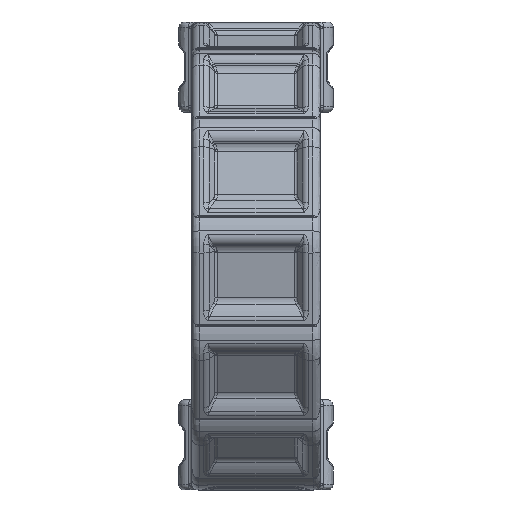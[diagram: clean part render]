
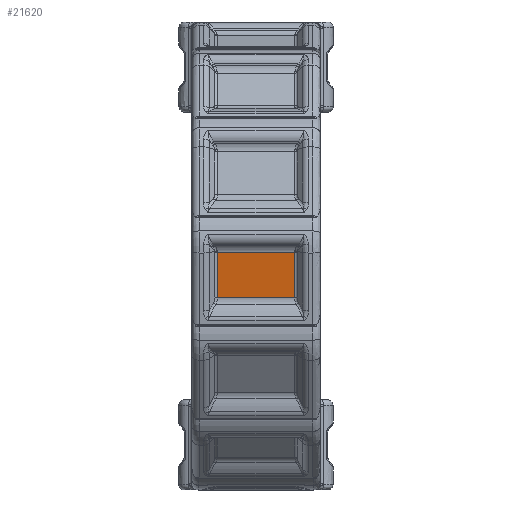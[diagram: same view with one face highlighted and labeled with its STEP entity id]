
A CAD part, front view. The second image highlights one B-rep face of the part: STEP entity #21620.
In plain terms, the highlighted planar face has unit normal (0, -0.988, -0.157) as drawn and (0, 0, -1) by its records, which use the part's own axes.
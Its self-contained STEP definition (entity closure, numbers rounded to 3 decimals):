
#18987=CARTESIAN_POINT('',(40.061,1.357,4.));
#18988=VERTEX_POINT('',#18987);
#19034=CARTESIAN_POINT('',(40.061,19.177,4.));
#19035=VERTEX_POINT('',#19034);
#19045=CARTESIAN_POINT('',(40.061,19.177,4.));
#19046=DIRECTION('',(0.0,-1.0,0.0));
#19047=VECTOR('',#19046,17.821);
#19048=LINE('',#19045,#19047);
#19049=EDGE_CURVE('',#19035,#18988,#19048,.T.);
#21577=CARTESIAN_POINT('',(9.939,19.177,4.));
#21578=VERTEX_POINT('',#21577);
#21579=CARTESIAN_POINT('',(40.061,19.177,4.));
#21580=DIRECTION('',(-1.0,0.0,0.0));
#21581=VECTOR('',#21580,30.121);
#21582=LINE('',#21579,#21581);
#21583=EDGE_CURVE('',#19035,#21578,#21582,.T.);
#21597=CARTESIAN_POINT('',(6.,20.7,4.));
#21598=DIRECTION('',(0.0,0.0,-1.0));
#21599=DIRECTION('',(1.0,0.0,0.0));
#21600=AXIS2_PLACEMENT_3D('',#21597,#21598,#21599);
#21601=PLANE('',#21600);
#21602=CARTESIAN_POINT('',(9.939,1.357,4.));
#21603=VERTEX_POINT('',#21602);
#21604=CARTESIAN_POINT('',(40.061,1.357,4.));
#21605=DIRECTION('',(-1.0,0.0,0.0));
#21606=VECTOR('',#21605,30.121);
#21607=LINE('',#21604,#21606);
#21608=EDGE_CURVE('',#18988,#21603,#21607,.T.);
#21609=ORIENTED_EDGE('',*,*,#21608,.T.);
#21610=CARTESIAN_POINT('',(9.939,19.177,4.));
#21611=DIRECTION('',(0.0,-1.0,0.0));
#21612=VECTOR('',#21611,17.821);
#21613=LINE('',#21610,#21612);
#21614=EDGE_CURVE('',#21578,#21603,#21613,.T.);
#21615=ORIENTED_EDGE('',*,*,#21614,.F.);
#21616=ORIENTED_EDGE('',*,*,#21583,.F.);
#21617=ORIENTED_EDGE('',*,*,#19049,.T.);
#21618=EDGE_LOOP('',(#21609,#21615,#21616,#21617));
#21619=FACE_OUTER_BOUND('',#21618,.T.);
#21620=ADVANCED_FACE('',(#21619),#21601,.T.);
